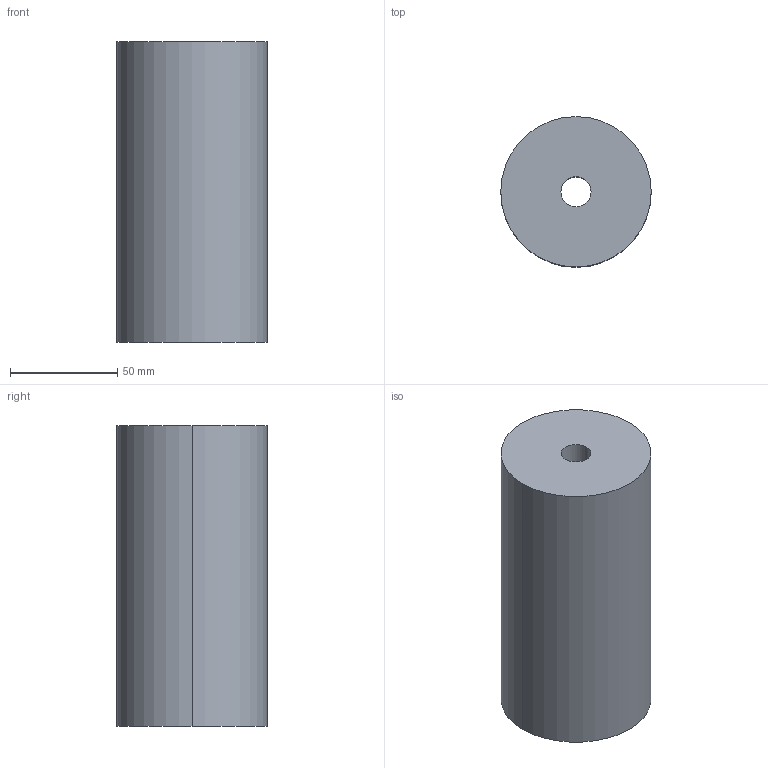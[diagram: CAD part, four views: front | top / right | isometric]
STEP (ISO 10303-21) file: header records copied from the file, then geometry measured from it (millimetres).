
FILE_DESCRIPTION(/* description */ (''),/* implementation_level */ '2;1');
FILE_NAME(/* name */ '3d_e70-140_03707_r00.stp',/* time_stamp */ '2011-01-10T14:15:49+09:00',/* author */ ('MISUMI'),/* organization */ (''),/* preprocessor_version */ 'ST-DEVELOPER v11',/* originating_system */ 'UGS - NX 5.0',/* authorisation */ '');
FILE_SCHEMA (('CONFIG_CONTROL_DESIGN'));
Length unit declared in the file: millimetre
Products named in the file (1): 3d_e70-140_03707_r00
Bounding box: 70 x 70 x 140 mm (x, y, z)
Volume: 517231.8 mm3; surface area: 44334.2 mm2
Topology: 1 solids, 1 shells, 6 faces, 12 edges, 8 vertices
Faces by surface type: cylinder 4, plane 2
Entity records: 254 total; most frequent: DIRECTION 34, CARTESIAN_POINT 27, ORIENTED_EDGE 24, AXIS2_PLACEMENT_3D 15, EDGE_CURVE 12, EDGE_LOOP 8, VERTEX_POINT 8, CIRCLE 8
